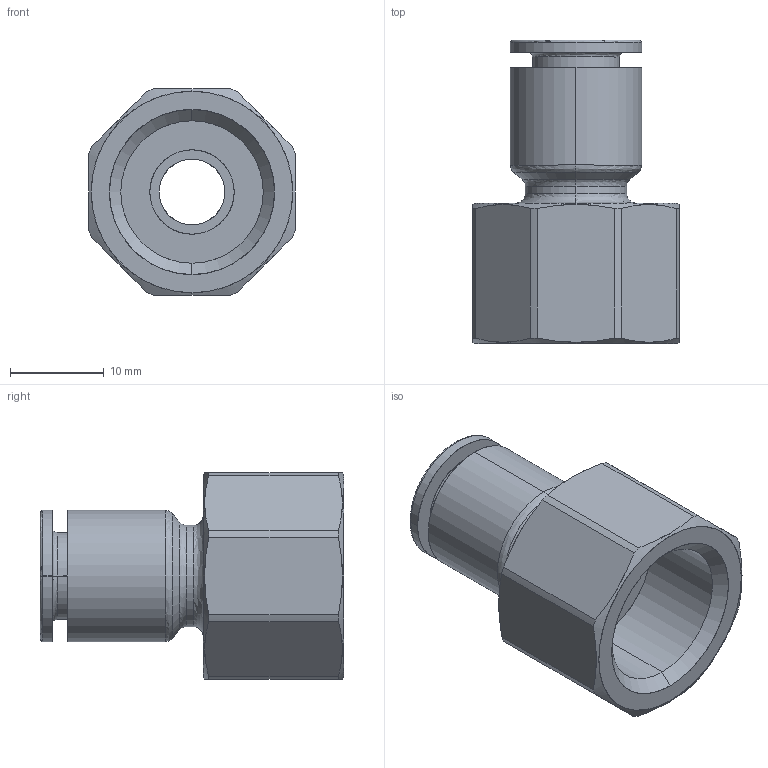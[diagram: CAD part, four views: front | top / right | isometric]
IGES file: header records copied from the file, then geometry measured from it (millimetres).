
Start section: SolidWorks IGES file using analytic representation for surfaces
Global section: file name: K:\Disegni Esecutivi\SERIE 54000\54000-Assiemi\54030\IGES\5403000010A.IGS; native system: SolidWorks 2020; preprocessor: SolidWorks 2020; author: cad06; date: 250804.111407; units: millimetre
Bounding box: 22 x 32.4 x 22 mm (x, y, z)
Surface area: 3744.2 mm2 (no closed solid volume)
Topology: 0 solids, 0 shells, 205 faces, 2063 edges, 2063 vertices
Faces by surface type: bspline 169, revolution 36
